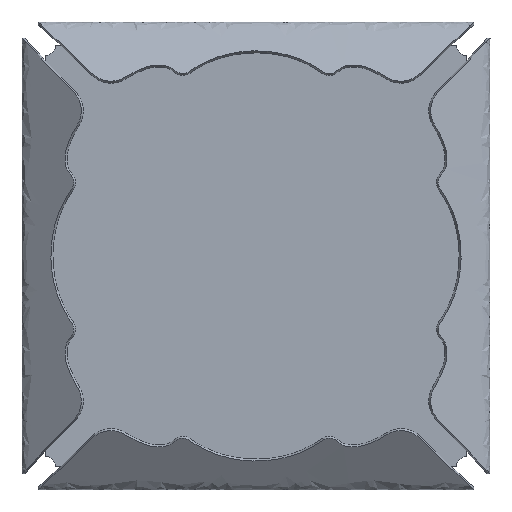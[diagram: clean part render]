
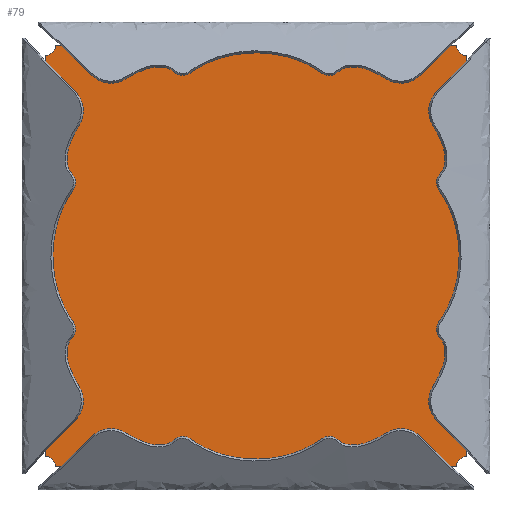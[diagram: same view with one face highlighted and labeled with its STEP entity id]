
A CAD part, top view. The second image highlights one B-rep face of the part: STEP entity #79.
In plain terms, the highlighted planar face has unit normal (0, 0, 1).
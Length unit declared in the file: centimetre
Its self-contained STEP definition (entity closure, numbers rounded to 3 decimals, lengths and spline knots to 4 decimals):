
#79=ADVANCED_FACE($,(#189),#1413,.T.);
#189=FACE_OUTER_BOUND($,#299,.T.);
#299=EDGE_LOOP($,(#492,#493,#494,#495,#496,#497,#498,#499,#500,#501,#502,
#503,#504,#505,#506,#507));
#492=ORIENTED_EDGE($,*,*,#987,.F.);
#493=ORIENTED_EDGE($,*,*,#957,.F.);
#494=ORIENTED_EDGE($,*,*,#973,.F.);
#495=ORIENTED_EDGE($,*,*,#965,.F.);
#496=ORIENTED_EDGE($,*,*,#981,.F.);
#497=ORIENTED_EDGE($,*,*,#966,.F.);
#498=ORIENTED_EDGE($,*,*,#982,.F.);
#499=ORIENTED_EDGE($,*,*,#967,.F.);
#500=ORIENTED_EDGE($,*,*,#983,.F.);
#501=ORIENTED_EDGE($,*,*,#968,.F.);
#502=ORIENTED_EDGE($,*,*,#984,.F.);
#503=ORIENTED_EDGE($,*,*,#969,.F.);
#504=ORIENTED_EDGE($,*,*,#985,.F.);
#505=ORIENTED_EDGE($,*,*,#970,.F.);
#506=ORIENTED_EDGE($,*,*,#986,.F.);
#507=ORIENTED_EDGE($,*,*,#971,.F.);
#957=EDGE_CURVE($,#1207,#1206,#1435,.T.);
#965=EDGE_CURVE($,#1223,#1222,#1558,.T.);
#966=EDGE_CURVE($,#1225,#1224,#1439,.T.);
#967=EDGE_CURVE($,#1227,#1226,#1559,.T.);
#968=EDGE_CURVE($,#1229,#1228,#1440,.T.);
#969=EDGE_CURVE($,#1231,#1230,#1560,.T.);
#970=EDGE_CURVE($,#1233,#1232,#1441,.T.);
#971=EDGE_CURVE($,#1235,#1234,#1561,.T.);
#973=EDGE_CURVE($,#1222,#1207,#1443,.T.);
#981=EDGE_CURVE($,#1224,#1223,#1451,.T.);
#982=EDGE_CURVE($,#1226,#1225,#1452,.T.);
#983=EDGE_CURVE($,#1228,#1227,#1453,.T.);
#984=EDGE_CURVE($,#1230,#1229,#1454,.T.);
#985=EDGE_CURVE($,#1232,#1231,#1455,.T.);
#986=EDGE_CURVE($,#1234,#1233,#1456,.T.);
#987=EDGE_CURVE($,#1206,#1235,#1457,.T.);
#1206=VERTEX_POINT($,#2360);
#1207=VERTEX_POINT($,#2361);
#1222=VERTEX_POINT($,#2376);
#1223=VERTEX_POINT($,#2377);
#1224=VERTEX_POINT($,#2378);
#1225=VERTEX_POINT($,#2379);
#1226=VERTEX_POINT($,#2380);
#1227=VERTEX_POINT($,#2381);
#1228=VERTEX_POINT($,#2382);
#1229=VERTEX_POINT($,#2383);
#1230=VERTEX_POINT($,#2384);
#1231=VERTEX_POINT($,#2385);
#1232=VERTEX_POINT($,#2386);
#1233=VERTEX_POINT($,#2387);
#1234=VERTEX_POINT($,#2388);
#1235=VERTEX_POINT($,#2389);
#1413=PLANE($,#1783);
#1435=(
BOUNDED_CURVE()
B_SPLINE_CURVE(2,(#2083,#2084,#2085),.UNSPECIFIED.,.F.,.F.)
B_SPLINE_CURVE_WITH_KNOTS((3,3),(80.89,83.3569),.UNSPECIFIED.)
CURVE()
GEOMETRIC_REPRESENTATION_ITEM()
RATIONAL_B_SPLINE_CURVE((1.,0.774,1.))
REPRESENTATION_ITEM($)
);
#1439=(
BOUNDED_CURVE()
B_SPLINE_CURVE(2,(#2105,#2106,#2107),.UNSPECIFIED.,.F.,.F.)
B_SPLINE_CURVE_WITH_KNOTS((3,3),(297.5723,300.0392),.UNSPECIFIED.)
CURVE()
GEOMETRIC_REPRESENTATION_ITEM()
RATIONAL_B_SPLINE_CURVE((1.,0.774,1.))
REPRESENTATION_ITEM($)
);
#1440=(
BOUNDED_CURVE()
B_SPLINE_CURVE(2,(#2110,#2111,#2112),.UNSPECIFIED.,.F.,.F.)
B_SPLINE_CURVE_WITH_KNOTS((3,3),(225.3449,227.8117),.UNSPECIFIED.)
CURVE()
GEOMETRIC_REPRESENTATION_ITEM()
RATIONAL_B_SPLINE_CURVE((1.,0.774,1.))
REPRESENTATION_ITEM($)
);
#1441=(
BOUNDED_CURVE()
B_SPLINE_CURVE(2,(#2115,#2116,#2117),.UNSPECIFIED.,.F.,.F.)
B_SPLINE_CURVE_WITH_KNOTS((3,3),(153.1175,155.5843),.UNSPECIFIED.)
CURVE()
GEOMETRIC_REPRESENTATION_ITEM()
RATIONAL_B_SPLINE_CURVE((1.,0.774,1.))
REPRESENTATION_ITEM($)
);
#1443=(
BOUNDED_CURVE()
B_SPLINE_CURVE(2,(#2123,#2124,#2125),.UNSPECIFIED.,.F.,.F.)
B_SPLINE_CURVE_WITH_KNOTS((3,3),(-1.,0.),.UNSPECIFIED.)
CURVE()
GEOMETRIC_REPRESENTATION_ITEM()
RATIONAL_B_SPLINE_CURVE((1.,0.742,1.))
REPRESENTATION_ITEM($)
);
#1451=(
BOUNDED_CURVE()
B_SPLINE_CURVE(2,(#2147,#2148,#2149),.UNSPECIFIED.,.F.,.F.)
B_SPLINE_CURVE_WITH_KNOTS((3,3),(-1.,0.),.UNSPECIFIED.)
CURVE()
GEOMETRIC_REPRESENTATION_ITEM()
RATIONAL_B_SPLINE_CURVE((1.,0.742,1.))
REPRESENTATION_ITEM($)
);
#1452=(
BOUNDED_CURVE()
B_SPLINE_CURVE(2,(#2150,#2151,#2152),.UNSPECIFIED.,.F.,.F.)
B_SPLINE_CURVE_WITH_KNOTS((3,3),(-1.,0.),.UNSPECIFIED.)
CURVE()
GEOMETRIC_REPRESENTATION_ITEM()
RATIONAL_B_SPLINE_CURVE((1.,0.742,1.))
REPRESENTATION_ITEM($)
);
#1453=(
BOUNDED_CURVE()
B_SPLINE_CURVE(2,(#2153,#2154,#2155),.UNSPECIFIED.,.F.,.F.)
B_SPLINE_CURVE_WITH_KNOTS((3,3),(-1.,0.),.UNSPECIFIED.)
CURVE()
GEOMETRIC_REPRESENTATION_ITEM()
RATIONAL_B_SPLINE_CURVE((1.,0.742,1.))
REPRESENTATION_ITEM($)
);
#1454=(
BOUNDED_CURVE()
B_SPLINE_CURVE(2,(#2156,#2157,#2158),.UNSPECIFIED.,.F.,.F.)
B_SPLINE_CURVE_WITH_KNOTS((3,3),(-1.,0.),.UNSPECIFIED.)
CURVE()
GEOMETRIC_REPRESENTATION_ITEM()
RATIONAL_B_SPLINE_CURVE((1.,0.742,1.))
REPRESENTATION_ITEM($)
);
#1455=(
BOUNDED_CURVE()
B_SPLINE_CURVE(2,(#2159,#2160,#2161),.UNSPECIFIED.,.F.,.F.)
B_SPLINE_CURVE_WITH_KNOTS((3,3),(-1.,0.),.UNSPECIFIED.)
CURVE()
GEOMETRIC_REPRESENTATION_ITEM()
RATIONAL_B_SPLINE_CURVE((1.,0.742,1.))
REPRESENTATION_ITEM($)
);
#1456=(
BOUNDED_CURVE()
B_SPLINE_CURVE(2,(#2162,#2163,#2164),.UNSPECIFIED.,.F.,.F.)
B_SPLINE_CURVE_WITH_KNOTS((3,3),(-1.,0.),.UNSPECIFIED.)
CURVE()
GEOMETRIC_REPRESENTATION_ITEM()
RATIONAL_B_SPLINE_CURVE((1.,0.742,1.))
REPRESENTATION_ITEM($)
);
#1457=(
BOUNDED_CURVE()
B_SPLINE_CURVE(2,(#2165,#2166,#2167),.UNSPECIFIED.,.F.,.F.)
B_SPLINE_CURVE_WITH_KNOTS((3,3),(-1.,0.),.UNSPECIFIED.)
CURVE()
GEOMETRIC_REPRESENTATION_ITEM()
RATIONAL_B_SPLINE_CURVE((1.,0.742,1.))
REPRESENTATION_ITEM($)
);
#1558=B_SPLINE_CURVE_WITH_KNOTS($,1,(#2103,#2104),.UNSPECIFIED.,.F.,.F.,
(2,2),(300.4094,369.4295),.UNSPECIFIED.);
#1559=B_SPLINE_CURVE_WITH_KNOTS($,1,(#2108,#2109),.UNSPECIFIED.,.F.,.F.,
(2,2),(228.182,297.2021),.UNSPECIFIED.);
#1560=B_SPLINE_CURVE_WITH_KNOTS($,1,(#2113,#2114),.UNSPECIFIED.,.F.,.F.,
(2,2),(155.9546,224.9746),.UNSPECIFIED.);
#1561=B_SPLINE_CURVE_WITH_KNOTS($,1,(#2118,#2119),.UNSPECIFIED.,.F.,.F.,
(2,2),(83.7271,152.7472),.UNSPECIFIED.);
#1783=AXIS2_PLACEMENT_3D($,#2233,#1804,$);
#1804=DIRECTION($,(0.,0.,1.));
#2083=CARTESIAN_POINT($,(71.209,70.6141,3.1));
#2084=CARTESIAN_POINT($,(71.3561,69.1502,3.1));
#2085=CARTESIAN_POINT($,(72.82,69.0031,3.1));
#2103=CARTESIAN_POINT($,(1.99,70.7941,3.1));
#2104=CARTESIAN_POINT($,(71.01,70.7941,3.1));
#2105=CARTESIAN_POINT($,(0.18,69.0031,3.1));
#2106=CARTESIAN_POINT($,(1.6439,69.1502,3.1));
#2107=CARTESIAN_POINT($,(1.791,70.6141,3.1));
#2108=CARTESIAN_POINT($,(0.,-0.2159,3.1));
#2109=CARTESIAN_POINT($,(0.,68.8041,3.1));
#2110=CARTESIAN_POINT($,(1.791,-2.0259,3.1));
#2111=CARTESIAN_POINT($,(1.6439,-0.5621,3.1));
#2112=CARTESIAN_POINT($,(0.18,-0.4149,3.1));
#2113=CARTESIAN_POINT($,(71.01,-2.2059,3.1));
#2114=CARTESIAN_POINT($,(1.99,-2.2059,3.1));
#2115=CARTESIAN_POINT($,(72.82,-0.4149,3.1));
#2116=CARTESIAN_POINT($,(71.3561,-0.5621,3.1));
#2117=CARTESIAN_POINT($,(71.209,-2.0259,3.1));
#2118=CARTESIAN_POINT($,(73.,68.8041,3.1));
#2119=CARTESIAN_POINT($,(73.,-0.2159,3.1));
#2123=CARTESIAN_POINT($,(71.01,70.7941,3.1));
#2124=CARTESIAN_POINT($,(71.1909,70.7941,3.1));
#2125=CARTESIAN_POINT($,(71.209,70.6141,3.1));
#2147=CARTESIAN_POINT($,(1.791,70.6141,3.1));
#2148=CARTESIAN_POINT($,(1.8091,70.7941,3.1));
#2149=CARTESIAN_POINT($,(1.99,70.7941,3.1));
#2150=CARTESIAN_POINT($,(0.,68.8041,3.1));
#2151=CARTESIAN_POINT($,(0.,68.985,3.1));
#2152=CARTESIAN_POINT($,(0.18,69.0031,3.1));
#2153=CARTESIAN_POINT($,(0.18,-0.4149,3.1));
#2154=CARTESIAN_POINT($,(0.,-0.3969,3.1));
#2155=CARTESIAN_POINT($,(0.,-0.2159,3.1));
#2156=CARTESIAN_POINT($,(1.99,-2.2059,3.1));
#2157=CARTESIAN_POINT($,(1.8091,-2.2059,3.1));
#2158=CARTESIAN_POINT($,(1.791,-2.0259,3.1));
#2159=CARTESIAN_POINT($,(71.209,-2.0259,3.1));
#2160=CARTESIAN_POINT($,(71.1909,-2.2059,3.1));
#2161=CARTESIAN_POINT($,(71.01,-2.2059,3.1));
#2162=CARTESIAN_POINT($,(73.,-0.2159,3.1));
#2163=CARTESIAN_POINT($,(73.,-0.3969,3.1));
#2164=CARTESIAN_POINT($,(72.82,-0.4149,3.1));
#2165=CARTESIAN_POINT($,(72.82,69.0031,3.1));
#2166=CARTESIAN_POINT($,(73.,68.985,3.1));
#2167=CARTESIAN_POINT($,(73.,68.8041,3.1));
#2233=CARTESIAN_POINT($,(0.,70.7941,3.1));
#2360=CARTESIAN_POINT($,(72.82,69.0031,3.1));
#2361=CARTESIAN_POINT($,(71.209,70.6141,3.1));
#2376=CARTESIAN_POINT($,(71.01,70.7941,3.1));
#2377=CARTESIAN_POINT($,(1.99,70.7941,3.1));
#2378=CARTESIAN_POINT($,(1.791,70.6141,3.1));
#2379=CARTESIAN_POINT($,(0.18,69.0031,3.1));
#2380=CARTESIAN_POINT($,(0.,68.8041,3.1));
#2381=CARTESIAN_POINT($,(0.,-0.2159,3.1));
#2382=CARTESIAN_POINT($,(0.18,-0.4149,3.1));
#2383=CARTESIAN_POINT($,(1.791,-2.0259,3.1));
#2384=CARTESIAN_POINT($,(1.99,-2.2059,3.1));
#2385=CARTESIAN_POINT($,(71.01,-2.2059,3.1));
#2386=CARTESIAN_POINT($,(71.209,-2.0259,3.1));
#2387=CARTESIAN_POINT($,(72.82,-0.4149,3.1));
#2388=CARTESIAN_POINT($,(73.,-0.2159,3.1));
#2389=CARTESIAN_POINT($,(73.,68.8041,3.1));
